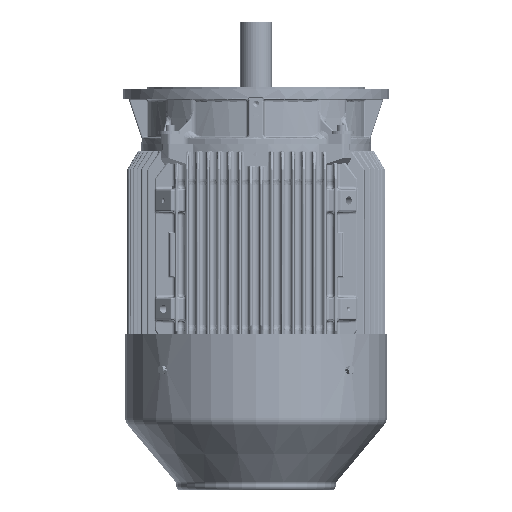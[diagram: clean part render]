
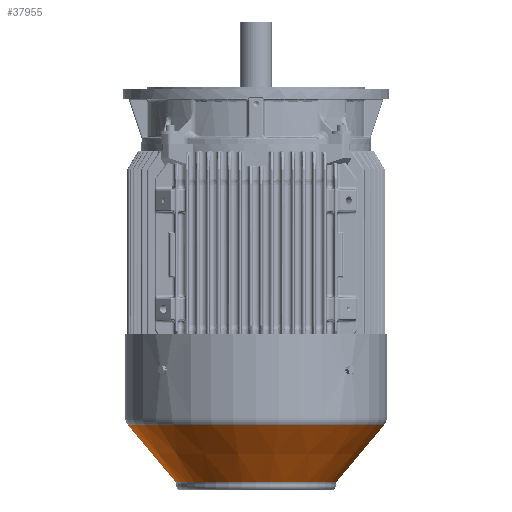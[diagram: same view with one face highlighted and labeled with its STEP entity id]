
A CAD part, front view. The second image highlights one B-rep face of the part: STEP entity #37955.
In plain terms, the highlighted conical face has half-angle 40 degrees and reference radius 166.872 mm.
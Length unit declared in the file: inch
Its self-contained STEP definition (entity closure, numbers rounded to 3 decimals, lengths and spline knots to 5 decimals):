
#7745 = VERTEX_POINT ( 'NONE', #277168 ) ;
#12650 = CARTESIAN_POINT ( 'NONE',  ( 0., 0., -18.54706 ) ) ;
#19357 = CIRCLE ( 'NONE', #339276, 10.43902 ) ;
#23169 = EDGE_CURVE ( 'NONE', #60615, #7745, #527879, .T. ) ;
#37955 = ADVANCED_FACE ( 'NONE', ( #439090 ), #581263, .T. ) ;
#39837 = CARTESIAN_POINT ( 'NONE',  ( -6.56975, 0., -18.54706 ) ) ;
#52790 = CIRCLE ( 'NONE', #184404, 6.56975 ) ;
#53785 = CARTESIAN_POINT ( 'NONE',  ( 6.56975, 0., -18.54706 ) ) ;
#60615 = VERTEX_POINT ( 'NONE', #39837 ) ;
#80656 = CARTESIAN_POINT ( 'NONE',  ( 0., 0., -13.93584 ) ) ;
#115418 = ORIENTED_EDGE ( 'NONE', *, *, #150389, .T. ) ;
#130106 = LINE ( 'NONE', #492379, #341357 ) ;
#150389 = EDGE_CURVE ( 'NONE', #60615, #430871, #52790, .T. ) ;
#184404 = AXIS2_PLACEMENT_3D ( 'NONE', #12650, #460271, #280660 ) ;
#188108 = ORIENTED_EDGE ( 'NONE', *, *, #23169, .F. ) ;
#204102 = CARTESIAN_POINT ( 'NONE',  ( 10.43902, 0., -13.93584 ) ) ;
#215614 = VERTEX_POINT ( 'NONE', #204102 ) ;
#253835 = CARTESIAN_POINT ( 'NONE',  ( -6.56975, 0., -18.54706 ) ) ;
#272569 = VECTOR ( 'NONE', #348086, 39.37008 ) ;
#277168 = CARTESIAN_POINT ( 'NONE',  ( -10.43902, 0., -13.93584 ) ) ;
#280660 = DIRECTION ( 'NONE',  ( 1., 0., 0. ) ) ;
#297789 = DIRECTION ( 'NONE',  ( 0., 0., 1. ) ) ;
#298950 = AXIS2_PLACEMENT_3D ( 'NONE', #571810, #297789, #341983 ) ;
#339276 = AXIS2_PLACEMENT_3D ( 'NONE', #80656, #442898, #398737 ) ;
#341357 = VECTOR ( 'NONE', #486591, 39.37008 ) ;
#341983 = DIRECTION ( 'NONE',  ( 1., 0., 0. ) ) ;
#343829 = EDGE_CURVE ( 'NONE', #7745, #215614, #19357, .T. ) ;
#348086 = DIRECTION ( 'NONE',  ( -0.643, 0., 0.766 ) ) ;
#376678 = ORIENTED_EDGE ( 'NONE', *, *, #397258, .T. ) ;
#390401 = EDGE_LOOP ( 'NONE', ( #188108, #115418, #376678, #478498 ) ) ;
#397258 = EDGE_CURVE ( 'NONE', #430871, #215614, #130106, .T. ) ;
#398737 = DIRECTION ( 'NONE',  ( 1., 0., 0. ) ) ;
#430871 = VERTEX_POINT ( 'NONE', #53785 ) ;
#439090 = FACE_OUTER_BOUND ( 'NONE', #390401, .T. ) ;
#442898 = DIRECTION ( 'NONE',  ( 0., 0., 1. ) ) ;
#460271 = DIRECTION ( 'NONE',  ( 0., 0., 1. ) ) ;
#478498 = ORIENTED_EDGE ( 'NONE', *, *, #343829, .F. ) ;
#486591 = DIRECTION ( 'NONE',  ( 0.643, 0., 0.766 ) ) ;
#492379 = CARTESIAN_POINT ( 'NONE',  ( 6.56975, 0., -18.54706 ) ) ;
#527879 = LINE ( 'NONE', #253835, #272569 ) ;
#571810 = CARTESIAN_POINT ( 'NONE',  ( 0., 0., -18.54706 ) ) ;
#581263 = CONICAL_SURFACE ( 'NONE', #298950, 6.56975, 0.698 ) ;
